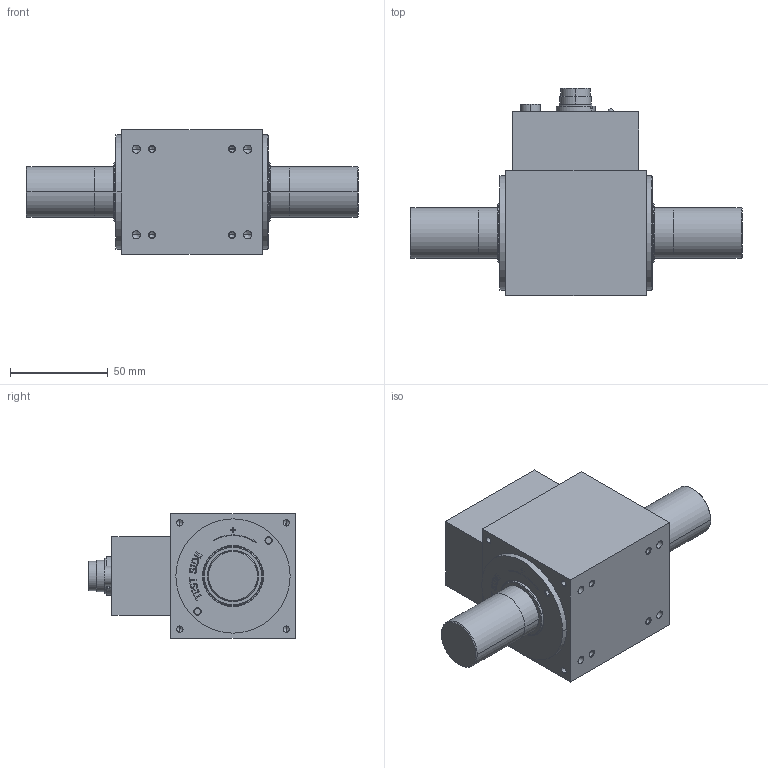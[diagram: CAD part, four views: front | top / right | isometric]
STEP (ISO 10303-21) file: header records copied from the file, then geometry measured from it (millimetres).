
FILE_DESCRIPTION(('STEP AP214'),'1');
FILE_NAME('burster_8661-5200-vxx00_6jhcphy96vt3lnnk6t1klbjtf.stp','2017-04-20T20:16:14',('TraceParts'),('TraceParts S.A.'),'Spatial InterOp 3D',' ',' ');
FILE_SCHEMA(('automotive_design'));
Length unit declared in the file: millimetre
Products named in the file (1): burster_8661-5200-vxx00_6jhcphy96vt3lnnk6t1klbjtf
Bounding box: 170.01 x 106 x 64 mm (x, y, z)
Volume: 436980.5 mm3; surface area: 47134.9 mm2
Topology: 1 solids, 5 shells, 808 faces, 2130 edges, 1349 vertices
Faces by surface type: plane 326, cylinder 207, cone 130, bspline 79, torus 36, sphere 30
Entity records: 32088 total; most frequent: CARTESIAN_POINT 5878, ORIENTED_EDGE 4136, DIRECTION 4031, EDGE_CURVE 2068, AXIS2_PLACEMENT_3D 1433, VERTEX_POINT 1349, LINE 1165, VECTOR 1165
